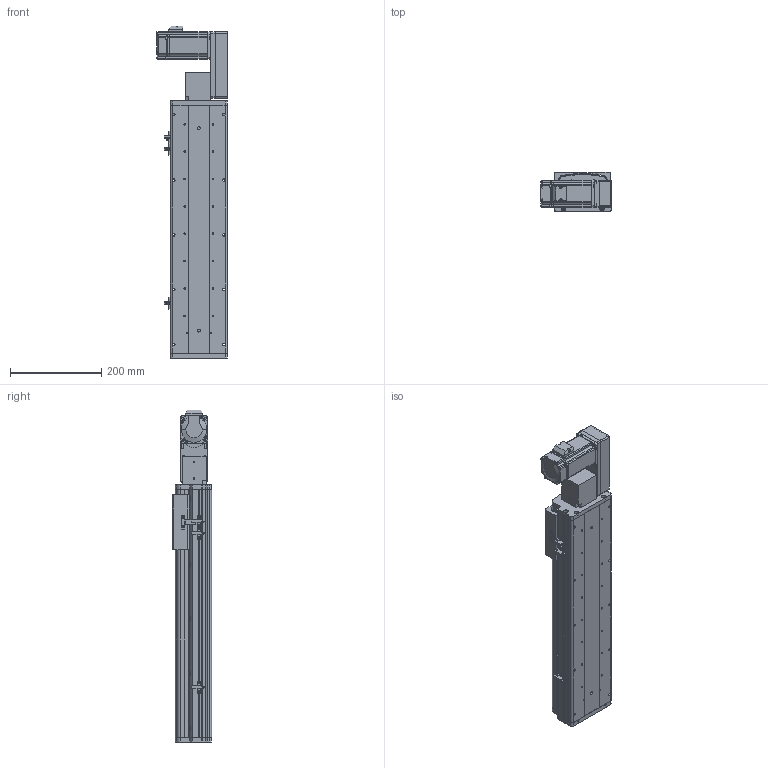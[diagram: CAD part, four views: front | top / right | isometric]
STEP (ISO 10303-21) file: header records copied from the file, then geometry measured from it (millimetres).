
FILE_DESCRIPTION (( 'STEP AP214' ), '1' );
FILE_NAME ('KSD125B-S350-MLB-CM.STEP', '2017-10-21T01:34:26', ( '微软用户' ), ( '微软中国' ), 'SwSTEP 2.0', 'SolidWorks 2014', '' );
FILE_SCHEMA (( 'AUTOMOTIVE_DESIGN' ));
Length unit declared in the file: millimetre
Products named in the file (17): 悵誘欶奻狟殏; HTPA30S3M150_A_H6_a佪裝蚚; HTPA30S3M150_A_H6_a萇儂蚚; 100宽马达安装板连板上下折丝杆同步带; 100宽马达安装板同步带左; KSD125模组350行程同步带-防尘盖; 125模组350行程同步带-底板; MHMD042G1CA_2_03; KSD125模组同步带-防撞垫2; 覜茼え68遵圉猾敕; U倰嫖萇假蚾璃; U倰嫖萇EEㄜSX672; KSD125模组同步带-防撞垫1; 前端板-125宽模组同步带; 125模组同步带-尾端板1; KSD125模组同步带-滑动座1; KSD125B-S350-MLB-CM
Assembly tree (20 placements, depth 2):
  KSD125B-S350-MLB-CM
    KSD125模组同步带-滑动座1
    125模组同步带-尾端板1
    前端板-125宽模组同步带
    KSD125模组同步带-防撞垫1
    U倰嫖萇EEㄜSX672  x3
    U倰嫖萇假蚾璃  x3
    覜茼え68遵圉猾敕
    KSD125模组同步带-防撞垫2
    MHMD042G1CA_2_03
    125模组350行程同步带-底板
    KSD125模组350行程同步带-防尘盖
    100宽马达安装板同步带左
    100宽马达安装板连板上下折丝杆同步带
    HTPA30S3M150_A_H6_a萇儂蚚
    HTPA30S3M150_A_H6_a佪裝蚚
    悵誘欶奻狟殏
Bounding box: 155 x 86 x 728 mm (x, y, z)
Volume: 2190873.6 mm3; surface area: 773617.4 mm2
Topology: 19 solids, 22 shells, 2217 faces, 6415 edges, 4238 vertices
Faces by surface type: cylinder 1372, plane 718, cone 105, bspline 22
Entity records: 78401 total; most frequent: CARTESIAN_POINT 15525, DIRECTION 12200, ORIENTED_EDGE 11350, EDGE_CURVE 5753, AXIS2_PLACEMENT_3D 4701, VERTEX_POINT 3830, LINE 2798, VECTOR 2798
